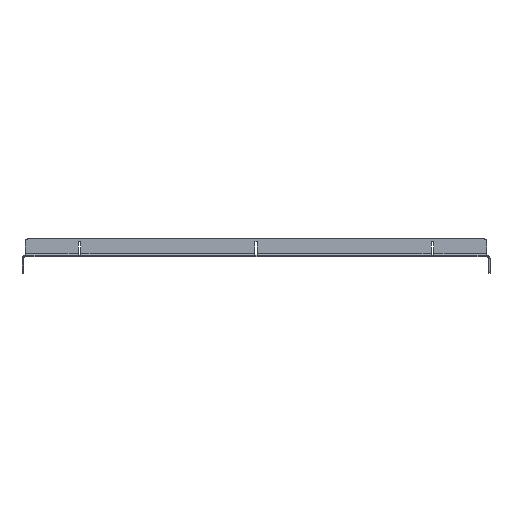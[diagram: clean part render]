
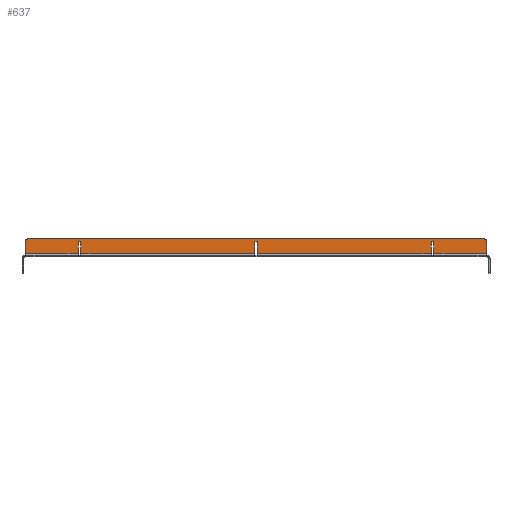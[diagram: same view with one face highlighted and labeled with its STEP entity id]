
A CAD part, front view. The second image highlights one B-rep face of the part: STEP entity #637.
In plain terms, the highlighted planar face has unit normal (0, -1, 0).
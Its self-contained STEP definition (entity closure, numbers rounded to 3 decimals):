
#637=ADVANCED_FACE('',(#5249),#5251,.T.);
#5249=FACE_BOUND('',#5250,.T.);
#5250=EDGE_LOOP('',(#8881,#8882,#8883,#8884,#8885,#8886,#8887,#8888,#8889,#8890,
#8891,#8892,#8893,#8894,#8895,#8896,#8897,#8898));
#5251=PLANE('',#5252);
#5252=AXIS2_PLACEMENT_3D('',#5253,#5254,#5255);
#5253=CARTESIAN_POINT('',(0.,551.5,-550.273));
#5254=DIRECTION('',(0.,-1.,0.));
#5255=DIRECTION('',(1.,0.,0.));
#8881=ORIENTED_EDGE('',*,*,#10771,.F.);
#8882=ORIENTED_EDGE('',*,*,#10772,.T.);
#8883=ORIENTED_EDGE('',*,*,#10334,.F.);
#8884=ORIENTED_EDGE('',*,*,#10773,.T.);
#8885=ORIENTED_EDGE('',*,*,#10774,.T.);
#8886=ORIENTED_EDGE('',*,*,#10775,.T.);
#8887=ORIENTED_EDGE('',*,*,#10327,.F.);
#8888=ORIENTED_EDGE('',*,*,#10776,.T.);
#8889=ORIENTED_EDGE('',*,*,#10777,.T.);
#8890=ORIENTED_EDGE('',*,*,#10778,.T.);
#8891=ORIENTED_EDGE('',*,*,#10321,.F.);
#8892=ORIENTED_EDGE('',*,*,#10779,.T.);
#8893=ORIENTED_EDGE('',*,*,#10780,.T.);
#8894=ORIENTED_EDGE('',*,*,#10781,.T.);
#8895=ORIENTED_EDGE('',*,*,#10314,.F.);
#8896=ORIENTED_EDGE('',*,*,#10782,.T.);
#8897=ORIENTED_EDGE('',*,*,#10783,.F.);
#8898=ORIENTED_EDGE('',*,*,#10784,.T.);
#10314=EDGE_CURVE('',#13212,#13210,#13214,.T.);
#10321=EDGE_CURVE('',#13221,#13219,#13223,.T.);
#10327=EDGE_CURVE('',#13228,#13230,#13231,.T.);
#10334=EDGE_CURVE('',#13237,#13239,#13240,.T.);
#10771=EDGE_CURVE('',#13685,#13686,#13687,.F.);
#10772=EDGE_CURVE('',#13685,#13239,#13688,.T.);
#10773=EDGE_CURVE('',#13237,#13689,#13690,.F.);
#10774=EDGE_CURVE('',#13689,#13691,#13692,.F.);
#10775=EDGE_CURVE('',#13691,#13230,#13693,.F.);
#10776=EDGE_CURVE('',#13228,#13694,#13695,.F.);
#10777=EDGE_CURVE('',#13694,#13696,#13697,.F.);
#10778=EDGE_CURVE('',#13696,#13219,#13698,.F.);
#10779=EDGE_CURVE('',#13221,#13699,#13700,.F.);
#10780=EDGE_CURVE('',#13699,#13701,#13702,.F.);
#10781=EDGE_CURVE('',#13701,#13210,#13703,.F.);
#10782=EDGE_CURVE('',#13212,#13704,#13705,.T.);
#10783=EDGE_CURVE('',#13706,#13704,#13707,.F.);
#10784=EDGE_CURVE('',#13706,#13686,#13708,.T.);
#13210=VERTEX_POINT('',#19066);
#13212=VERTEX_POINT('',#19071);
#13214=LINE('',#19076,#19077);
#13219=VERTEX_POINT('',#19091);
#13221=VERTEX_POINT('',#19096);
#13223=LINE('',#19101,#19102);
#13228=VERTEX_POINT('',#19116);
#13230=VERTEX_POINT('',#19121);
#13231=LINE('',#19122,#19123);
#13237=VERTEX_POINT('',#19141);
#13239=VERTEX_POINT('',#19146);
#13240=LINE('',#19147,#19148);
#13685=VERTEX_POINT('',#20475);
#13686=VERTEX_POINT('',#20476);
#13687=CIRCLE('',#20477,3.);
#13688=LINE('',#20481,#20482);
#13689=VERTEX_POINT('',#20484);
#13690=LINE('',#20485,#20486);
#13691=VERTEX_POINT('',#20488);
#13692=LINE('',#20489,#20490);
#13693=LINE('',#20492,#20493);
#13694=VERTEX_POINT('',#20495);
#13695=LINE('',#20496,#20497);
#13696=VERTEX_POINT('',#20499);
#13697=LINE('',#20500,#20501);
#13698=LINE('',#20503,#20504);
#13699=VERTEX_POINT('',#20506);
#13700=LINE('',#20507,#20508);
#13701=VERTEX_POINT('',#20510);
#13702=LINE('',#20511,#20512);
#13703=LINE('',#20514,#20515);
#13704=VERTEX_POINT('',#20517);
#13705=LINE('',#20518,#20519);
#13706=VERTEX_POINT('',#20521);
#13707=CIRCLE('',#20522,3.);
#13708=LINE('',#20526,#20527);
#19066=CARTESIAN_POINT('',(440.,551.5,3.5));
#19071=CARTESIAN_POINT('',(496.5,551.5,3.5));
#19076=CARTESIAN_POINT('',(496.5,551.5,3.5));
#19077=VECTOR('',#19078,1.);
#19078=DIRECTION('',(-1.,0.,0.));
#19091=CARTESIAN_POINT('',(251.5,551.5,3.5));
#19096=CARTESIAN_POINT('',(437.,551.5,3.5));
#19101=CARTESIAN_POINT('',(437.,551.5,3.5));
#19102=VECTOR('',#19103,1.);
#19103=DIRECTION('',(-1.,0.,0.));
#19116=CARTESIAN_POINT('',(248.5,551.5,3.5));
#19121=CARTESIAN_POINT('',(63.,551.5,3.5));
#19122=CARTESIAN_POINT('',(248.5,551.5,3.5));
#19123=VECTOR('',#19124,1.);
#19124=DIRECTION('',(-1.,0.,0.));
#19141=CARTESIAN_POINT('',(60.,551.5,3.5));
#19146=CARTESIAN_POINT('',(3.5,551.5,3.5));
#19147=CARTESIAN_POINT('',(60.,551.5,3.5));
#19148=VECTOR('',#19149,1.);
#19149=DIRECTION('',(-1.,0.,0.));
#20475=CARTESIAN_POINT('',(3.5,551.5,16.));
#20476=CARTESIAN_POINT('',(6.5,551.5,19.));
#20477=AXIS2_PLACEMENT_3D('',#20478,#20479,#20480);
#20478=CARTESIAN_POINT('',(6.5,551.5,16.));
#20479=DIRECTION('',(0.,-1.,0.));
#20480=DIRECTION('',(0.,0.,1.));
#20481=CARTESIAN_POINT('',(3.5,551.5,16.));
#20482=VECTOR('',#20483,1.);
#20483=DIRECTION('',(0.,0.,-1.));
#20484=CARTESIAN_POINT('',(60.,551.5,16.));
#20485=CARTESIAN_POINT('',(60.,551.5,16.));
#20486=VECTOR('',#20487,1.);
#20487=DIRECTION('',(0.,0.,-1.));
#20488=CARTESIAN_POINT('',(63.,551.5,16.));
#20489=CARTESIAN_POINT('',(63.,551.5,16.));
#20490=VECTOR('',#20491,1.);
#20491=DIRECTION('',(-1.,0.,0.));
#20492=CARTESIAN_POINT('',(63.,551.5,3.5));
#20493=VECTOR('',#20494,1.);
#20494=DIRECTION('',(0.,0.,1.));
#20495=CARTESIAN_POINT('',(248.5,551.5,16.));
#20496=CARTESIAN_POINT('',(248.5,551.5,16.));
#20497=VECTOR('',#20498,1.);
#20498=DIRECTION('',(0.,0.,-1.));
#20499=CARTESIAN_POINT('',(251.5,551.5,16.));
#20500=CARTESIAN_POINT('',(251.5,551.5,16.));
#20501=VECTOR('',#20502,1.);
#20502=DIRECTION('',(-1.,0.,0.));
#20503=CARTESIAN_POINT('',(251.5,551.5,3.5));
#20504=VECTOR('',#20505,1.);
#20505=DIRECTION('',(0.,0.,1.));
#20506=CARTESIAN_POINT('',(437.,551.5,16.));
#20507=CARTESIAN_POINT('',(437.,551.5,16.));
#20508=VECTOR('',#20509,1.);
#20509=DIRECTION('',(0.,0.,-1.));
#20510=CARTESIAN_POINT('',(440.,551.5,16.));
#20511=CARTESIAN_POINT('',(440.,551.5,16.));
#20512=VECTOR('',#20513,1.);
#20513=DIRECTION('',(-1.,0.,0.));
#20514=CARTESIAN_POINT('',(440.,551.5,3.5));
#20515=VECTOR('',#20516,1.);
#20516=DIRECTION('',(0.,0.,1.));
#20517=CARTESIAN_POINT('',(496.5,551.5,16.));
#20518=CARTESIAN_POINT('',(496.5,551.5,3.5));
#20519=VECTOR('',#20520,1.);
#20520=DIRECTION('',(0.,0.,1.));
#20521=CARTESIAN_POINT('',(493.5,551.5,19.));
#20522=AXIS2_PLACEMENT_3D('',#20523,#20524,#20525);
#20523=CARTESIAN_POINT('',(493.5,551.5,16.));
#20524=DIRECTION('',(0.,-1.,0.));
#20525=DIRECTION('',(1.,0.,0.));
#20526=CARTESIAN_POINT('',(493.5,551.5,19.));
#20527=VECTOR('',#20528,1.);
#20528=DIRECTION('',(-1.,0.,0.));
